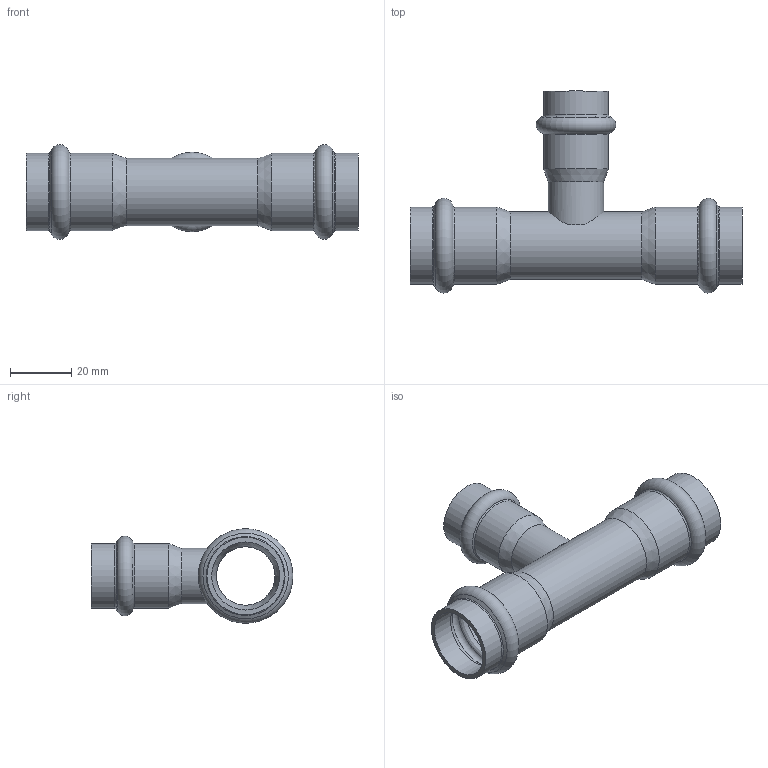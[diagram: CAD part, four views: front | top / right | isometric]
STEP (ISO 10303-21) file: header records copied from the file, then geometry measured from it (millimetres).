
FILE_DESCRIPTION((''),'2;1');
FILE_NAME('G:\Nirosan-Schmiedefeld\Technics\CAD\Bauteile VA\022\69130221822(2).stp','2012-01-31T16:00:17',('herberg'),(''),'Autodesk Inventor 2009','Autodesk Inventor 2009','');
FILE_SCHEMA(('AUTOMOTIVE_DESIGN { 1 0 10303 214 1 1 1 1 }'));
Length unit declared in the file: millimetre
Products named in the file (3): 69130221822(2); LM_69130221822(2); HM_69130221822(0)
Assembly tree (2 placements, depth 2):
  69130221822(2)
    LM_69130221822(2)
    HM_69130221822(0)
Bounding box: 108 x 65.69 x 30.79 mm (x, y, z)
Volume: 15932.4 mm3; surface area: 21727.9 mm2
Topology: 2 solids, 2 shells, 53 faces, 115 edges, 65 vertices
Faces by surface type: cylinder 18, cone 12, bspline 12, torus 6, plane 5
Full cylindrical faces by diameter (mm): 14 x1, 15 x1, 18 x1, 18.15 x2, 19 x1, 21.15 x2, 22 x1, 22.15 x4, 25.15 x4
Entity records: 1974 total; most frequent: CARTESIAN_POINT 1019, DIRECTION 194, ORIENTED_EDGE 114, EDGE_LOOP 106, AXIS2_PLACEMENT_3D 96, EDGE_CURVE 57, VERTEX_POINT 55, FACE_OUTER_BOUND 53
